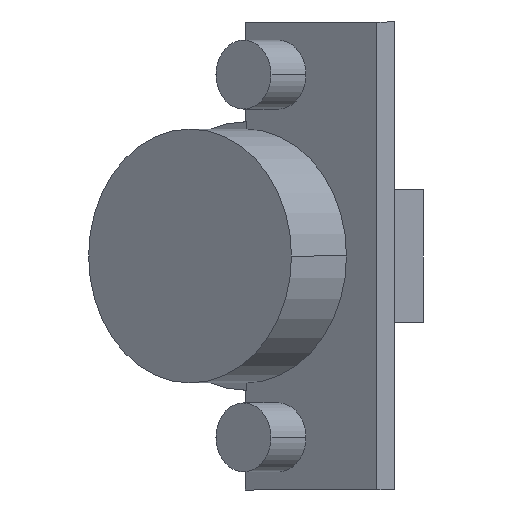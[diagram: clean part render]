
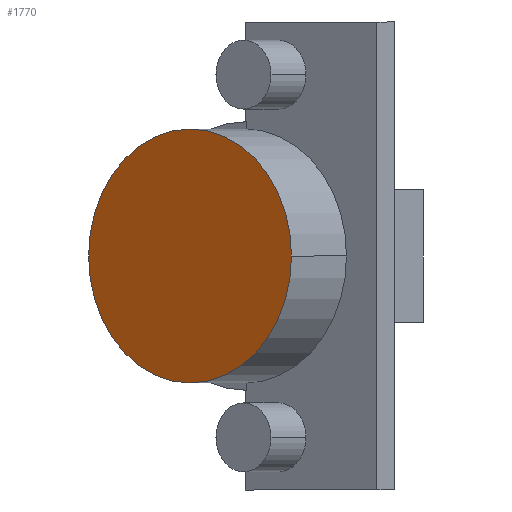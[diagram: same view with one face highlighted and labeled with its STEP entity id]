
A CAD part, front view. The second image highlights one B-rep face of the part: STEP entity #1770.
In plain terms, the highlighted planar face has unit normal (-0.602, -0.799, 0).
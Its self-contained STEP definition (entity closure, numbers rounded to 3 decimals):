
#42 = EDGE_LOOP ( 'NONE', ( #206, #205 ) ) ;
#205 = ORIENTED_EDGE ( 'NONE', *, *, #756, .T. ) ;
#206 = ORIENTED_EDGE ( 'NONE', *, *, #778, .T. ) ;
#418 = CIRCLE ( 'NONE', #895, 17.5 ) ;
#456 = CIRCLE ( 'NONE', #901, 17.5 ) ;
#659 = FACE_OUTER_BOUND ( 'NONE', #42, .T. ) ;
#756 = EDGE_CURVE ( 'NONE', #1033, #1046, #418, .T. ) ;
#778 = EDGE_CURVE ( 'NONE', #1046, #1033, #456, .T. ) ;
#895 = AXIS2_PLACEMENT_3D ( 'NONE', #1146, #1148, #1149 ) ;
#901 = AXIS2_PLACEMENT_3D ( 'NONE', #1187, #1200, #1201 ) ;
#927 = AXIS2_PLACEMENT_3D ( 'NONE', #1553, #1556, #1557 ) ;
#1033 = VERTEX_POINT ( 'NONE', #1464 ) ;
#1046 = VERTEX_POINT ( 'NONE', #1477 ) ;
#1146 = CARTESIAN_POINT ( 'NONE',  ( 11.417, -10.063, 0. ) ) ;
#1148 = DIRECTION ( 'NONE',  ( -0.602, -0.799, 0. ) ) ;
#1149 = DIRECTION ( 'NONE',  ( 0.799, -0.602, 0. ) ) ;
#1187 = CARTESIAN_POINT ( 'NONE',  ( 11.417, -10.063, 0. ) ) ;
#1200 = DIRECTION ( 'NONE',  ( -0.602, -0.799, 0. ) ) ;
#1201 = DIRECTION ( 'NONE',  ( 0.799, -0.602, 0. ) ) ;
#1464 = CARTESIAN_POINT ( 'NONE',  ( 25.393, -20.595, 0. ) ) ;
#1477 = CARTESIAN_POINT ( 'NONE',  ( -2.559, 0.469, 0. ) ) ;
#1553 = CARTESIAN_POINT ( 'NONE',  ( 11.417, -10.063, 0. ) ) ;
#1554 = PLANE ( 'NONE',  #927 ) ;
#1556 = DIRECTION ( 'NONE',  ( -0.602, -0.799, 0. ) ) ;
#1557 = DIRECTION ( 'NONE',  ( 0.799, -0.602, 0. ) ) ;
#1770 = ADVANCED_FACE ( 'NONE', ( #659 ), #1554, .T. ) ;
